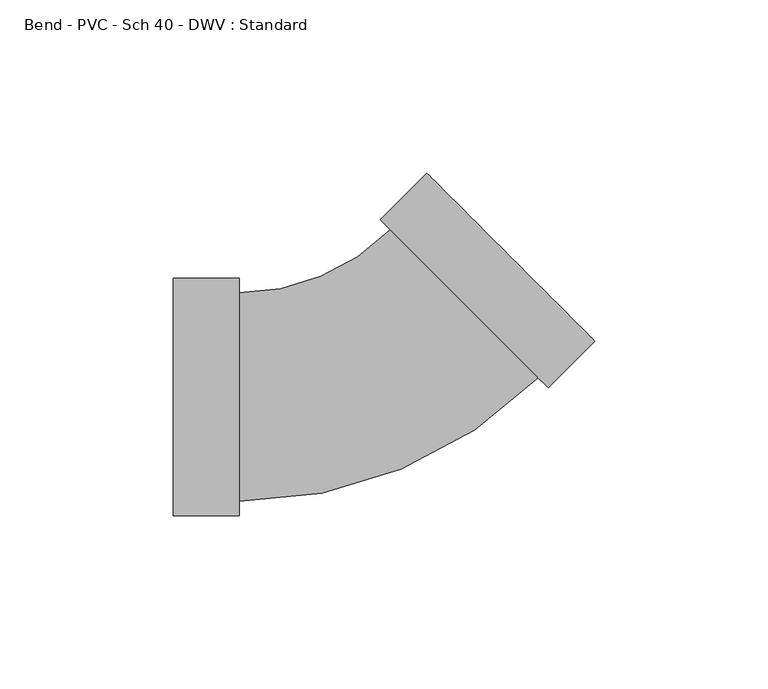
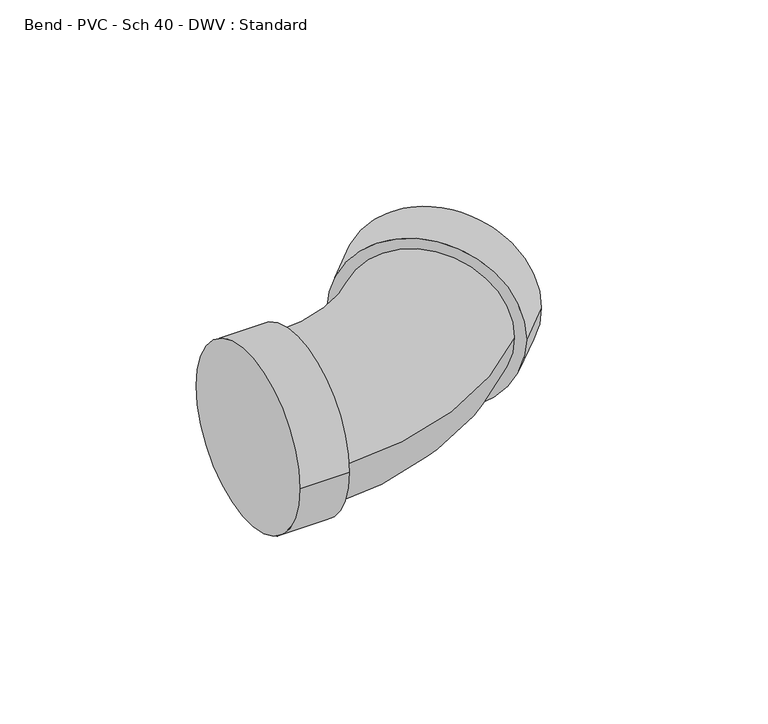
"""IFC4 building model written with IfcOpenShell, lengths in millimetres: pipe fitting geometry, Bend - PVC - Sch 40 - DWV : Standard."""

from ifc_helpers import new_model, si_unit, point, frame, origin, place, context, project, spatial, circle_curve, ellipse_curve, trimmed, source, transform, mapped, element, save
from ifc_brep_helpers import plane_surface, cylinder_surface, revolved_surface, advanced_brep


def bend_pvc_sch_40_dwv_standard_9d8d5a04(model_context):
    return source(origin(), model_context, "Body", "AdvancedBrep", [
        advanced_brep(
        [(-57.15, -34.3154, 0.0), (-57.15, 34.3154, 0.0), (-38.1, -34.3154, 0.0), (-38.1, 34.3154, 0.0), (-38.1, -30.1625, 0.0), (-38.1, 30.1625, 0.0), (5.6148293, 48.2686244, 0.0), (48.2691288, 5.6104908, 0.0), (51.2055406, 2.6738151, 0.0), (2.6784176, 51.2053001, 0.0), (64.6765302, 16.1435939, 0.0), (16.1494071, 64.6750789, 0.0)],
        [
            (0, 1, circle_curve(frame((-57.15, 0.0, 0.0), z_axis=(-1.0, 0.0, 0.0), x_axis=(0.0, 1.0, 0.0)), 34.3154)),
            (1, 0, circle_curve(frame((-57.15, 0.0, 0.0), z_axis=(-1.0, 0.0, 0.0), x_axis=(0.0, 1.0, 0.0)), 34.3154)),
            (2, 3, circle_curve(frame((-38.1, 0.0, 0.0), z_axis=(1.0, 0.0, 0.0), x_axis=(0.0, 1.0, 0.0)), 34.3154)),
            (3, 2, circle_curve(frame((-38.1, 0.0, 0.0), z_axis=(1.0, 0.0, 0.0), x_axis=(0.0, 1.0, 0.0)), 34.3154)),
            (4, 5, circle_curve(frame((-38.1, 0.0, 0.0), z_axis=(-1.0, 0.0, 0.0), x_axis=(0.0, 1.0, 0.0)), 30.1625)),
            (5, 4, circle_curve(frame((-38.1, 0.0, 0.0), z_axis=(-1.0, 0.0, 0.0), x_axis=(0.0, 1.0, 0.0)), 30.1625)),
            (0, 2),
            (3, 1),
            (6, 5, circle_curve(frame((-38.1, 91.9873831, 0.0), z_axis=(0.0, 0.0, -1.0), x_axis=(0.0, -1.0, 0.0)), 61.8248831)),
            (4, 7, circle_curve(frame((-38.1, 91.9873831, 0.0), z_axis=(0.0, 0.0, 1.0), x_axis=(0.0, -1.0, 0.0)), 122.1498831)),
            (7, 6, circle_curve(frame((26.9419791, 26.9395576, 0.0), z_axis=(-0.7071385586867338, -0.7070750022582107, 0.0), x_axis=(-0.7070750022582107, 0.7071385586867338, 0.0)), 30.1625)),
            (6, 7, circle_curve(frame((26.9419791, 26.9395576, 0.0), z_axis=(-0.7071385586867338, -0.7070750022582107, 0.0), x_axis=(-0.7070750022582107, 0.7071385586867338, 0.0)), 30.1625)),
            (8, 9, circle_curve(frame((26.9419791, 26.9395576, 0.0), z_axis=(-0.7071385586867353, -0.7070750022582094, 0.0), x_axis=(-0.7070750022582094, 0.7071385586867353, 0.0)), 34.3154)),
            (9, 8, circle_curve(frame((26.9419791, 26.9395576, 0.0), z_axis=(-0.7071385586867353, -0.7070750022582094, 0.0), x_axis=(-0.7070750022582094, 0.7071385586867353, 0.0)), 34.3154)),
            (10, 11, circle_curve(frame((40.4129686, 40.4093364, 0.0), z_axis=(0.7071385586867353, 0.7070750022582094, 0.0), x_axis=(-0.7070750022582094, 0.7071385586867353, 0.0)), 34.3154)),
            (11, 10, circle_curve(frame((40.4129686, 40.4093364, 0.0), z_axis=(0.7071385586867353, 0.7070750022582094, 0.0), x_axis=(-0.7070750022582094, 0.7071385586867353, 0.0)), 34.3154)),
            (8, 10),
            (11, 9),
        ],
        [
            plane_surface(frame((-57.15, 0.0, 0.0), z_axis=(-1.0, 0.0, 0.0), x_axis=(0.0, 0.0, 1.0))),
            plane_surface(frame((-38.1, 0.0, 0.0), z_axis=(1.0, 0.0, 0.0), x_axis=(0.0, 0.0, 1.0))),
            cylinder_surface(frame((-57.15, 0.0, 0.0), z_axis=(-1.0, 0.0, 0.0), x_axis=(0.0, 1.0, 0.0)), 34.3154),
            revolved_surface(trimmed(ellipse_curve(frame((-38.1, 0.0, 0.0), z_axis=(-1.0, 0.0, 0.0), x_axis=(0.0, 1.0, 0.0)), 30.1625, 30.1625), [point((-38.1, -30.1625, 0.0))], [point((-38.1, 30.1625, 0.0))], True, "CARTESIAN"), (-38.1, 91.9873831, 0.0), (0.0, 0.0, 1.0)),
            revolved_surface(trimmed(ellipse_curve(frame((-38.1, 0.0, 0.0), z_axis=(-1.0, 0.0, 0.0), x_axis=(0.0, 1.0, 0.0)), 30.1625, 30.1625), [point((-38.1, 30.1625, 0.0))], [point((-38.1, -30.1625, 0.0))], True, "CARTESIAN"), (-38.1, 91.9873831, 0.0), (0.0, 0.0, 1.0)),
            plane_surface(frame((26.9419791, 26.9395576, 0.0), z_axis=(-0.7071385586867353, -0.7070750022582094, 0.0), x_axis=(0.0, 0.0, 1.0))),
            plane_surface(frame((40.4129686, 40.4093364, 0.0), z_axis=(0.7071385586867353, 0.7070750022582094, 0.0), x_axis=(0.0, 0.0, 1.0))),
            cylinder_surface(frame((26.9419791, 26.9395576, 0.0), z_axis=(-0.7071385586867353, -0.7070750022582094, 0.0), x_axis=(-0.7070750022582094, 0.7071385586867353, 0.0)), 34.3154),
        ],
        [
            (0, [[1, 2]]),
            (1, [[3, 4], [5, 6]]),
            (2, [[-1, 7, -4, 8]]),
            (2, [[-2, -8, -3, -7]]),
            (3, [[9, -5, 10, 11]]),
            (4, [[-9, 12, -10, -6]]),
            (5, [[13, 14], [-11, -12]]),
            (6, [[15, 16]]),
            (7, [[-13, 17, -16, 18]]),
            (7, [[-14, -18, -15, -17]]),
        ],
    ),
    ])


if __name__ == "__main__":
    model = new_model("IFC4")
    model_context = context("Model", 3, world=origin())
    ifc_project = project(units=[si_unit("LENGTHUNIT", "METRE", prefix="MILLI")], contexts=[model_context])
    site = spatial("IfcSite", under=ifc_project)
    building = spatial("IfcBuilding", under=site)
    placement = place(None, origin())
    bend_pvc_sch_40_dwv_standard_shape = bend_pvc_sch_40_dwv_standard_9d8d5a04(model_context)
    element("IfcPipeFitting", 1, ObjectType="Bend - PVC - Sch 40 - DWV : Standard", at=placement, inside=building, context=model_context, shape_type="MappedRepresentation", body=[
        mapped(bend_pvc_sch_40_dwv_standard_shape, transform((0.0, 0.0, 0.0), x_axis=(1.0, 0.0, 0.0), y_axis=(0.0, 1.0, 0.0), z_axis=(0.0, 0.0, 1.0))),
    ])
    save(model, "model.ifc")
